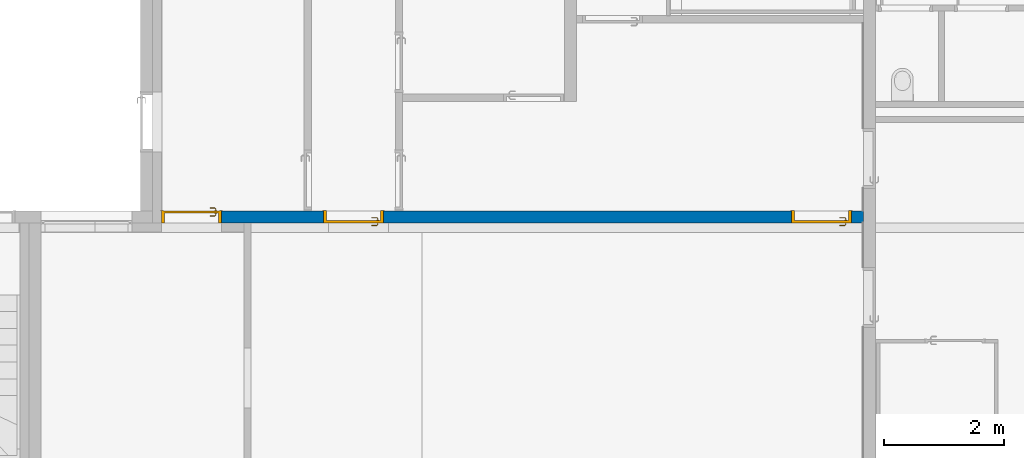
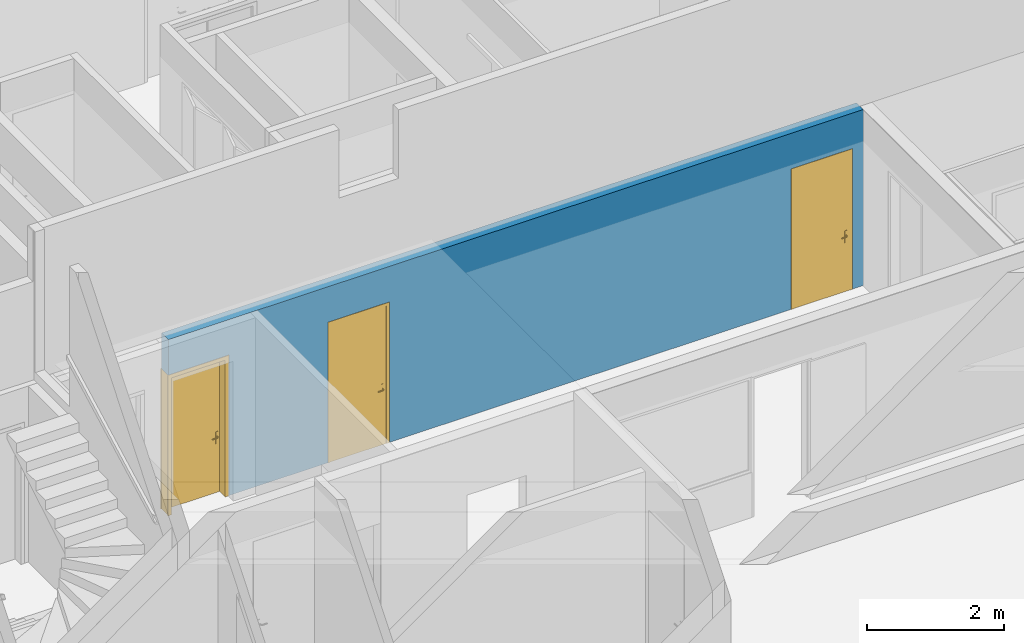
# One storey, part 89 of 240: 3 doors, 1 wall, 4 openings.
"""IFC2X3 building model written with IfcOpenShell, lengths in centimetres."""

from ifc_helpers import new_model, entity, si_unit, converted_unit, derived_unit, direction, frame, frame_2d, origin, place, context, subcontext, project, spatial, rectangle, extrude, faceted_brep, source, transform, mapped, material, material_list, layer, layer_set, layer_usage, type_object, type_shapes, element, fill, save


model = new_model("IFC2X3")

# Units and contexts
model_context = context("Model", 3, precision=0.001, world=origin(), true_north=direction((6.12303176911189e-17, 1.0)))
body_context = subcontext(model_context, "Body", "Model", "MODEL_VIEW")
ifc_project = project(units=[si_unit("LENGTHUNIT", "METRE", prefix="CENTI"), si_unit("AREAUNIT", "SQUARE_METRE"), si_unit("VOLUMEUNIT", "CUBIC_METRE"), converted_unit("PLANEANGLEUNIT", "DEGREE", entity("IfcRatioMeasure", 0.0174532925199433), si_unit("PLANEANGLEUNIT", "RADIAN"), dimensions=[0, 0, 0, 0, 0, 0, 0]), si_unit("MASSUNIT", "GRAM", prefix="KILO"), derived_unit("MASSDENSITYUNIT", [(si_unit("MASSUNIT", "GRAM", prefix="KILO"), 1), (si_unit("LENGTHUNIT", "METRE"), -3)]), si_unit("TIMEUNIT", "SECOND"), si_unit("FREQUENCYUNIT", "HERTZ"), si_unit("THERMODYNAMICTEMPERATUREUNIT", "DEGREE_CELSIUS"), derived_unit("THERMALTRANSMITTANCEUNIT", [(si_unit("MASSUNIT", "GRAM", prefix="KILO"), 1), (si_unit("THERMODYNAMICTEMPERATUREUNIT", "KELVIN"), -1), (si_unit("TIMEUNIT", "SECOND"), -3)]), derived_unit("VOLUMETRICFLOWRATEUNIT", [(si_unit("LENGTHUNIT", "METRE"), 3), (si_unit("TIMEUNIT", "SECOND"), -1)]), si_unit("ELECTRICCURRENTUNIT", "AMPERE"), si_unit("ELECTRICVOLTAGEUNIT", "VOLT"), si_unit("POWERUNIT", "WATT"), si_unit("FORCEUNIT", "NEWTON", prefix="KILO"), si_unit("ILLUMINANCEUNIT", "LUX"), si_unit("LUMINOUSFLUXUNIT", "LUMEN"), si_unit("LUMINOUSINTENSITYUNIT", "CANDELA"), derived_unit("USERDEFINED", [(si_unit("MASSUNIT", "GRAM", prefix="KILO"), -1), (si_unit("LENGTHUNIT", "METRE"), -2), (si_unit("TIMEUNIT", "SECOND"), 3), (si_unit("LUMINOUSFLUXUNIT", "LUMEN"), 1)]), derived_unit("LINEARVELOCITYUNIT", [(si_unit("LENGTHUNIT", "METRE"), 1), (si_unit("TIMEUNIT", "SECOND"), -1)]), si_unit("PRESSUREUNIT", "PASCAL"), derived_unit("USERDEFINED", [(si_unit("LENGTHUNIT", "METRE"), -2), (si_unit("MASSUNIT", "GRAM", prefix="KILO"), 1), (si_unit("TIMEUNIT", "SECOND"), -2)])], contexts=[model_context])

# Site, building, storey
site_placement = place(None, frame((-2781.94577612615, 7442.24238424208, 0.0)))
site = spatial("IfcSite", under=ifc_project, at=site_placement, Name="Default", CompositionType="ELEMENT")
building_placement = place(site_placement, origin())
building = spatial("IfcBuilding", under=site, at=building_placement, CompositionType="ELEMENT")
storey_placement = place(building_placement, origin())
storey = spatial("IfcBuildingStorey", under=building, at=storey_placement, Name="N00 - COO", CompositionType="ELEMENT", Elevation=0.0)

# Wall, openings, doors
ifc_material_1 = material(Name="01 - Maçonnerie")
ifc_layer = layer(ifc_material_1, 20.0)
ifc_layer_set = layer_set([ifc_layer], Name="Mur de base:04 - Structure - béton - 20cm")
ifc_layer_usage = layer_usage(ifc_layer_set, "AXIS2", "NEGATIVE", 10.0)
wall_type = type_object("IfcWallType", Name="Mur de base:04 - Structure - béton - 20cm", PredefinedType="STANDARD", material=ifc_layer_set)
wall_placement = place(building_placement, frame((-9697.0, -3362.52180651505, 0.0), z_axis=(0.0, 0.0, 1.0), x_axis=(-1.0, 0.0, 0.0)))
wall = element("IfcWallStandardCase", 1, at=wall_placement, inside=storey, type_object=wall_type, material=ifc_layer_usage, Name="Mur de base:04 - Structure - béton - 20cm", ObjectType="Mur de base:04 - Structure - béton - 20cm", context=body_context, shape_type="SweptSolid", body=[
    extrude(rectangle(XDim=1169.31305066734, YDim=19.9999999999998, at=frame_2d((584.656525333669, -1.06581410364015e-14), x_axis=(-1.0, 0.0))), origin(), (0.0, 0.0, 1.0), 313.000000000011),
])
opening_1_placement = place(wall_placement, origin())
element("IfcOpeningElement", 2, at=opening_1_placement, cuts=wall, Name="Mur de base:04 - Structure - béton - 20cm", ObjectType="Opening", context=body_context, shape_type="SweptSolid", body=[
    extrude(rectangle(XDim=250.0, YDim=151.269760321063, at=frame_2d((-8.66862137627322e-13, 0.0), x_axis=(0.0, 1.0))), frame((1294.24793082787, -25.2399999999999, 125.0), z_axis=(0.0, 1.0, 0.0), x_axis=(-1.0, 0.0, 0.0)), (0.0, 0.0, 1.0), 50.4799999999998),
])
opening_2_placement = place(wall_placement, frame((799.61304764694, -10.0, 0.0)))
opening_2 = element("IfcOpeningElement", 3, at=opening_2_placement, cuts=wall, Name="Int. Simple:PP simple (0.93m x 2.50m):1", ObjectType="Opening", context=body_context, shape_type="SweptSolid", body=[
    extrude(rectangle(XDim=248.500000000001, YDim=99.9999999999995, at=frame_2d((124.250000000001, 49.9999999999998), x_axis=(1.0, 0.0))), frame((0.0, 0.0, 0.0), z_axis=(0.0, 1.0, 0.0), x_axis=(0.0, 0.0, 1.0)), (0.0, 0.0, 1.0), 20.0),
])
opening_3_placement = place(wall_placement, frame((1169.31304764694, 10.0, 0.0)))
opening_3 = element("IfcOpeningElement", 4, at=opening_3_placement, cuts=wall, Name="Int. Simple:PP simple (0.93m x 2.50m):1", ObjectType="Opening", context=body_context, shape_type="SweptSolid", body=[
    extrude(rectangle(XDim=248.500000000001, YDim=99.9999999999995, at=frame_2d((124.250000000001, 50.0), x_axis=(1.0, 0.0))), frame((0.0, 0.0, 0.0), z_axis=(0.0, -1.0, 0.0), x_axis=(0.0, 0.0, 1.0)), (0.0, 0.0, 1.0), 20.0),
])
opening_4_placement = place(wall_placement, frame((19.9999969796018, -10.0, 0.0)))
opening_4 = element("IfcOpeningElement", 5, at=opening_4_placement, cuts=wall, Name="Int. Simple:PP simple (0.93m x 2.50m):1", ObjectType="Opening", context=body_context, shape_type="SweptSolid", body=[
    extrude(rectangle(XDim=248.500000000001, YDim=99.9999999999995, at=frame_2d((124.250000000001, 49.9999999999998), x_axis=(1.0, 0.0))), frame((0.0, 0.0, 0.0), z_axis=(0.0, 1.0, 0.0), x_axis=(0.0, 0.0, 1.0)), (0.0, 0.0, 1.0), 20.0),
])
ifc_material_2 = material(Name="Finition Peinture - Blanc satiné")
ifc_material_3 = material(Name="Bois - Panneau de porte")
ifc_material_4 = material(Name="Bois - Cadre de porte")
ifc_material_list_1 = material_list([ifc_material_2, ifc_material_3, ifc_material_4])
ifc_material_list_2 = material_list([ifc_material_2, ifc_material_3, ifc_material_4])
door_style_1 = type_object("IfcDoorStyle", Name="PP simple (0.93m x 2.50m)", ConstructionType="NOTDEFINED", OperationType="SINGLE_SWING_LEFT", ParameterTakesPrecedence=False, Sizeable=False, material=ifc_material_list_2)
shared_shape_1 = source(origin(), body_context, "Body", "Brep", [
    faceted_brep([(10.5352761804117, -0.500000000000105, 86.6003983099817), (11.5000000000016, -0.500000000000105, 87.0), (11.5000000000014, -0.500000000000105, 108.0), (10.5352761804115, -0.500000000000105, 108.399601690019), (9.50000000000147, -0.500000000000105, 108.535898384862), (8.46472381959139, -0.500000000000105, 108.399601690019), (7.50000000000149, -0.500000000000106, 108.0), (7.50000000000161, -0.500000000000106, 87.0), (8.46472381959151, -0.500000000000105, 86.6003983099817), (9.50000000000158, -0.500000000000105, 86.464101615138), (10.5352761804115, 0.0, 108.399601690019), (11.5000000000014, 0.0, 108.0), (11.5000000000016, 0.0, 87.0), (10.5352761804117, 0.0, 86.6003983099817), (9.50000000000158, 0.0, 86.464101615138), (8.46472381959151, 0.0, 86.6003983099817), (7.50000000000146, 0.0, 87.0), (7.50000000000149, 0.0, 108.0), (8.46472381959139, 0.0, 108.399601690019), (9.50000000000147, 0.0, 108.535898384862)], [[[0, 1, 2, 3, 4, 5, 6, 7, 8, 9]], [[10, 11, 12, 13, 14, 15, 16, 17, 18, 19]], [[16, 15, 8, 7]], [[8, 15, 14, 9]], [[14, 13, 0, 9]], [[13, 12, 1, 0]], [[2, 1, 12, 11]], [[11, 10, 3, 2]], [[3, 10, 19, 4]], [[19, 18, 5, 4]], [[18, 17, 6, 5]], [[7, 6, 17, 16]]]),
    faceted_brep([(10.5352761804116, 4.0, 86.6003983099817), (11.5000000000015, 4.0, 87.0), (11.5000000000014, 4.0, 108.0), (10.5352761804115, 4.0, 108.399601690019), (9.50000000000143, 4.0, 108.535898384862), (8.46472381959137, 4.0, 108.399601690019), (7.50000000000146, 4.0, 108.0), (7.50000000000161, 4.0, 87.0), (8.46472381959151, 4.0, 86.6003983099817), (9.50000000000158, 4.0, 86.464101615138), (10.5352761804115, 4.49999999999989, 108.399601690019), (11.5000000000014, 4.49999999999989, 108.0), (11.5000000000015, 4.49999999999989, 87.0), (10.5352761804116, 4.49999999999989, 86.6003983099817), (9.50000000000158, 4.49999999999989, 86.464101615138), (8.46472381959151, 4.49999999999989, 86.6003983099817), (7.50000000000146, 4.49999999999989, 87.0), (7.50000000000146, 4.49999999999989, 108.0), (8.46472381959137, 4.49999999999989, 108.399601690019), (9.50000000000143, 4.49999999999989, 108.535898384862)], [[[0, 1, 2, 3, 4, 5, 6, 7, 8, 9]], [[10, 11, 12, 13, 14, 15, 16, 17, 18, 19]], [[11, 10, 3, 2]], [[3, 10, 19, 4]], [[19, 18, 5, 4]], [[18, 17, 6, 5]], [[7, 6, 17, 16]], [[16, 15, 8, 7]], [[8, 15, 14, 9]], [[14, 13, 0, 9]], [[13, 12, 1, 0]], [[2, 1, 12, 11]]]),
    faceted_brep([(9.29747013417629, -0.500000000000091, 100.778044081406), (9.70252986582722, -0.500000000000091, 100.778044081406), (10.1000000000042, -0.500000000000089, 100.699999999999), (10.1000000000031, -0.500000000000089, 99.3000000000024), (9.7025298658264, -0.500000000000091, 99.2219559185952), (9.29747013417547, -0.500000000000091, 99.221955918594), (8.8999999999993, -0.500000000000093, 99.2999999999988), (8.89999999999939, -0.500000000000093, 100.7), (8.89999999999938, -3.26509507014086, 100.7), (9.29747013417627, -3.10045754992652, 100.778044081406), (10.9023585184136, -4.70534593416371, 100.778044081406), (11.0701397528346, -4.30028620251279, 100.778044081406), (9.7025298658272, -2.93267631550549, 100.778044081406), (10.1000000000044, -2.76803879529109, 100.7), (10.1000000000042, -2.76803879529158, 99.3000000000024), (9.7025298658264, -2.93267631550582, 99.2219559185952), (11.0701397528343, -4.30028620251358, 99.2219559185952), (10.9023585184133, -4.70534593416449, 99.221955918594), (9.29747013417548, -3.10045754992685, 99.221955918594), (8.89999999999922, -3.26509507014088, 99.2999999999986), (10.7377209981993, -5.10281606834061, 100.7), (11.2347772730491, -3.90281606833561, 100.7), (11.2347772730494, -3.90281606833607, 99.3000000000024), (10.7377209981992, -5.10281606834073, 99.2999999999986), (19.5018640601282, -5.1028160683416, 99.2999999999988), (19.5018640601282, -4.70534593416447, 99.221955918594), (19.5018640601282, -4.30028620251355, 99.2219559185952), (19.5018640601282, -3.90281606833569, 99.3000000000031), (19.5018640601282, -3.90281606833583, 100.7), (19.5018640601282, -4.30028620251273, 100.778044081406), (19.5018640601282, -4.70534593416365, 100.778044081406), (19.5018640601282, -5.10281606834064, 100.699999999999), (14.7307697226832, -5.10281606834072, 100.7), (15.2860019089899, -4.5028160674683, 100.78786867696), (15.3683206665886, -3.9028160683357, 100.7), (15.3683206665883, -3.90281606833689, 99.3000000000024), (15.2860018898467, -4.50281607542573, 99.2121313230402), (14.7307700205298, -5.10281606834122, 99.2999999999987)], [[[0, 1, 2, 3, 4, 5, 6, 7]], [[8, 9, 0, 7]], [[9, 10, 11, 12, 1, 0]], [[12, 13, 2, 1]], [[3, 2, 13, 14]], [[14, 15, 4, 3]], [[15, 16, 17, 18, 5, 4]], [[18, 19, 6, 5]], [[7, 6, 19, 8]], [[20, 10, 9, 8]], [[11, 21, 13, 12]], [[14, 13, 21, 22]], [[22, 16, 15, 14]], [[17, 23, 19, 18]], [[8, 19, 23, 20]], [[24, 25, 26, 27, 28, 29, 30, 31]], [[32, 30, 33]], [[31, 30, 32]], [[10, 20, 32]], [[33, 34, 11]], [[21, 11, 34]], [[34, 29, 28]], [[30, 29, 33]], [[29, 34, 33]], [[10, 32, 33]], [[10, 33, 11]], [[22, 21, 34, 28, 27, 35]], [[35, 26, 36]], [[37, 36, 25]], [[22, 35, 16]], [[35, 27, 26]], [[24, 37, 25]], [[23, 17, 37]], [[37, 17, 36]], [[17, 16, 36]], [[16, 35, 36]], [[25, 36, 26]], [[20, 23, 37, 24, 31, 32]]]),
    faceted_brep([(9.29747013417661, 4.49999999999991, 100.778044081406), (8.89999999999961, 4.4999999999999, 100.7), (8.89999999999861, 4.4999999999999, 99.2999999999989), (9.29747013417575, 4.49999999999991, 99.221955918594), (9.70252986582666, 4.49999999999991, 99.2219559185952), (10.1000000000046, 4.49999999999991, 99.3000000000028), (10.1000000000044, 4.49999999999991, 100.7), (9.70252986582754, 4.49999999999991, 100.778044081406), (10.1000000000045, 6.7485204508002, 99.3000000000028), (10.1000000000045, 6.74852045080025, 100.7), (9.70252986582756, 6.91315797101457, 100.778044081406), (11.083890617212, 8.29451872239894, 100.778044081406), (10.916109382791, 8.69957845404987, 100.778044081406), (9.29747013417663, 7.0809392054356, 100.778044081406), (8.89999999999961, 7.24557672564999, 100.7), (8.89999999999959, 7.2455767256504, 99.2999999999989), (9.29747013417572, 7.08093920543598, 99.221955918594), (10.9161093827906, 8.69957845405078, 99.221955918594), (11.0838906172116, 8.29451872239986, 99.2219559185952), (9.70252986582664, 6.91315797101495, 99.2219559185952), (11.2485281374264, 7.89704858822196, 99.3000000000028), (11.2485281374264, 7.89704858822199, 100.7), (10.7514718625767, 9.09704858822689, 100.7), (10.7514718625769, 9.0970485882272, 99.2999999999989), (19.5045783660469, 7.89704858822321, 99.3000000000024), (19.5045783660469, 8.29451872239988, 99.2219559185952), (19.5045783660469, 8.6995784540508, 99.221955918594), (19.5045783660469, 9.09704858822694, 99.2999999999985), (19.5045783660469, 9.09704858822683, 100.7), (19.5045783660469, 8.69957845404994, 100.778044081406), (19.5045783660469, 8.29451872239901, 100.778044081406), (19.5045783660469, 7.89704858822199, 100.7), (15.3765520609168, 7.89704858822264, 99.3000000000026), (15.3765532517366, 7.89704858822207, 100.7), (15.294234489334, 8.49704858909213, 100.78786867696), (14.7445205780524, 9.09704858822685, 100.7), (14.7445204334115, 9.09704858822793, 99.2999999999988), (15.2942345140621, 8.49704858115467, 99.2121313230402)], [[[0, 1, 2, 3, 4, 5, 6, 7]], [[6, 5, 8, 9]], [[9, 10, 7, 6]], [[10, 11, 12, 13, 0, 7]], [[13, 14, 1, 0]], [[2, 1, 14, 15]], [[15, 16, 3, 2]], [[16, 17, 18, 19, 4, 3]], [[19, 8, 5, 4]], [[9, 8, 20, 21]], [[21, 11, 10, 9]], [[12, 22, 14, 13]], [[15, 14, 22, 23]], [[23, 17, 16, 15]], [[18, 20, 8, 19]], [[24, 25, 26, 27, 28, 29, 30, 31]], [[21, 20, 32, 24, 31, 33]], [[33, 30, 34]], [[35, 34, 29]], [[21, 33, 11]], [[33, 31, 30]], [[28, 35, 29]], [[22, 12, 35]], [[35, 12, 34]], [[12, 11, 34]], [[11, 33, 34]], [[29, 34, 30]], [[22, 35, 28, 27, 36, 23]], [[36, 26, 37]], [[27, 26, 36]], [[17, 23, 36]], [[37, 32, 18]], [[20, 18, 32]], [[32, 25, 24]], [[26, 25, 37]], [[25, 32, 37]], [[17, 36, 37]], [[17, 37, 18]]]),
    faceted_brep([(3.50000000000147, 4.0, 245.0), (96.5000000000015, 4.0, 245.0), (96.5000000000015, 4.0, 0.0), (3.50000000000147, 4.0, 0.0), (3.50000000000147, 0.0, 245.0), (3.50000000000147, 0.0, 0.0), (96.5000000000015, 0.0, 0.0), (96.5000000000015, 0.0, 245.0)], [[[0, 1, 2, 3]], [[4, 5, 6, 7]], [[1, 0, 4, 7]], [[2, 1, 7, 6]], [[3, 2, 6, 5]], [[0, 3, 5, 4]]]),
    faceted_brep([(0.0, 20.0, 0.0), (-1.50000000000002, 20.0, 0.0), (-1.50000000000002, 20.5000000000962, 0.0), (5.0, 20.5000000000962, 0.0), (5.0, 4.0, 0.0), (3.50000000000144, 4.0, 0.0), (3.50000000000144, -0.500000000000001, 0.0), (-1.50000000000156, -0.500000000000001, 0.0), (-1.50000000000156, 0.0, 0.0), (0.0, 0.0, 0.0), (0.0, 0.0, 248.500000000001), (0.0, 20.0, 248.500000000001), (100.0, 20.0, 248.500000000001), (100.0, 20.0, 0.0), (101.5, 20.0, 0.0), (101.5, 20.0, 250.0), (-1.50000000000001, 20.0, 250.0), (5.0, 20.5000000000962, 243.5), (5.0, 4.0, 243.5), (95.0, 4.0, 243.5), (95.0, 4.0, 0.0), (96.499999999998, 4.0, 0.0), (96.499999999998, 4.0, 245.0), (3.50000000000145, 4.0, 245.0), (100.0, 0.0, 248.500000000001), (100.0, 0.0, 0.0), (101.500000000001, 0.0, 0.0), (101.500000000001, -0.500000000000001, 0.0), (96.499999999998, -0.500000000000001, 0.0), (95.0, 20.5000000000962, 0.0), (101.5, 20.5000000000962, 0.0), (95.0, 20.5000000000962, 243.5), (3.50000000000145, -0.500000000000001, 245.0), (96.499999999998, -0.500000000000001, 245.0), (101.500000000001, -0.500000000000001, 250.0), (-1.50000000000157, -0.500000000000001, 250.0), (-1.50000000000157, 0.0, 250.0), (101.500000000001, 0.0, 250.0), (-1.50000000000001, 20.5000000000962, 250.0), (101.5, 20.5000000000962, 250.0)], [[[0, 1, 2, 3, 4, 5, 6, 7, 8, 9]], [[0, 9, 10, 11]], [[1, 0, 11, 12, 13, 14, 15, 16]], [[3, 17, 18, 4]], [[5, 4, 18, 19, 20, 21, 22, 23]], [[12, 24, 25, 13]], [[13, 25, 26, 27, 28, 21, 20, 29, 30, 14]], [[19, 31, 29, 20]], [[11, 10, 24, 12]], [[18, 17, 31, 19]], [[5, 23, 32, 6]], [[7, 6, 32, 33, 28, 27, 34, 35]], [[8, 7, 35, 36]], [[9, 8, 36, 37, 26, 25, 24, 10]], [[2, 1, 16, 38]], [[3, 2, 38, 39, 30, 29, 31, 17]], [[33, 22, 21, 28]], [[37, 34, 27, 26]], [[39, 15, 14, 30]], [[32, 23, 22, 33]], [[36, 35, 34, 37]], [[38, 16, 15, 39]]]),
])
type_shapes(door_style_1, [shared_shape_1])
door_1_placement = place(opening_3_placement, frame((-100.0, -20.0, 0.0)))
door_1 = element("IfcDoor", 6, at=door_1_placement, inside=storey, type_object=door_style_1, material=ifc_material_list_1, Name="Int. Simple:PP simple (0.93m x 2.50m)", ObjectType="Int. Simple:PP simple (0.93m x 2.50m)", OverallHeight=248.500000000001, OverallWidth=99.9999999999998, context=body_context, shape_type="MappedRepresentation", body=[
    mapped(shared_shape_1, transform((0.0, 0.0, 0.0), scale=1.0)),
])
fill(opening_3, door_1)
ifc_material_list_3 = material_list([ifc_material_2, ifc_material_3, ifc_material_4])
ifc_material_list_4 = material_list([ifc_material_2, ifc_material_3, ifc_material_4])
door_style_2 = type_object("IfcDoorStyle", Name="PP simple (0.93m x 2.50m)", ConstructionType="NOTDEFINED", OperationType="SINGLE_SWING_RIGHT", ParameterTakesPrecedence=False, Sizeable=False, material=ifc_material_list_4)
shared_shape_2 = source(origin(), body_context, "Body", "Brep", [
    faceted_brep([(99.5000000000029, -0.500000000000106, 87.0), (99.5000000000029, -0.500000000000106, 108.0), (98.535276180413, -0.500000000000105, 108.399601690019), (97.5000000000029, -0.500000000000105, 108.535898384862), (96.4647238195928, -0.500000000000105, 108.399601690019), (95.500000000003, -0.500000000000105, 108.0), (95.5000000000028, -0.500000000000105, 87.0), (96.4647238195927, -0.500000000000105, 86.6003983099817), (97.5000000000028, -0.500000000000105, 86.464101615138), (98.5352761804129, -0.500000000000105, 86.6003983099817), (99.5000000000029, 0.0, 108.0), (99.5000000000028, 0.0, 87.0), (98.5352761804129, 0.0, 86.6003983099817), (97.5000000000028, 0.0, 86.464101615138), (96.4647238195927, 0.0, 86.6003983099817), (95.5000000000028, 0.0, 87.0), (95.5000000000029, 0.0, 108.0), (96.4647238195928, 0.0, 108.399601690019), (97.5000000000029, 0.0, 108.535898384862), (98.535276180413, 0.0, 108.399601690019)], [[[0, 1, 2, 3, 4, 5, 6, 7, 8, 9]], [[10, 11, 12, 13, 14, 15, 16, 17, 18, 19]], [[9, 12, 11, 0]], [[8, 13, 12, 9]], [[7, 14, 13, 8]], [[7, 6, 15, 14]], [[15, 6, 5, 16]], [[4, 17, 16, 5]], [[3, 18, 17, 4]], [[2, 19, 18, 3]], [[2, 1, 10, 19]], [[11, 10, 1, 0]]]),
    faceted_brep([(99.5000000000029, 4.0, 87.0), (99.5000000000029, 4.0, 108.0), (98.535276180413, 4.0, 108.399601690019), (97.5000000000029, 4.0, 108.535898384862), (96.4647238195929, 4.0, 108.399601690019), (95.500000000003, 4.0, 108.0), (95.5000000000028, 4.0, 87.0), (96.4647238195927, 4.0, 86.6003983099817), (97.5000000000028, 4.0, 86.464101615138), (98.5352761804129, 4.0, 86.6003983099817), (97.5000000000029, 4.49999999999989, 108.535898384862), (98.535276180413, 4.49999999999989, 108.399601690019), (99.5000000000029, 4.49999999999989, 108.0), (99.5000000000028, 4.49999999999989, 87.0), (98.5352761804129, 4.49999999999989, 86.6003983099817), (97.5000000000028, 4.49999999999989, 86.464101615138), (96.4647238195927, 4.49999999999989, 86.6003983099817), (95.5000000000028, 4.49999999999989, 87.0), (95.500000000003, 4.49999999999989, 108.0), (96.4647238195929, 4.49999999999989, 108.399601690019)], [[[0, 1, 2, 3, 4, 5, 6, 7, 8, 9]], [[10, 11, 12, 13, 14, 15, 16, 17, 18, 19]], [[4, 19, 18, 5]], [[3, 10, 19, 4]], [[2, 11, 10, 3]], [[2, 1, 12, 11]], [[13, 12, 1, 0]], [[9, 14, 13, 0]], [[8, 15, 14, 9]], [[7, 16, 15, 8]], [[7, 6, 17, 16]], [[17, 6, 5, 18]]]),
    faceted_brep([(97.2974701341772, -0.500000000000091, 100.778044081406), (97.7025298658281, -0.500000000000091, 100.778044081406), (98.1000000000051, -0.500000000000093, 100.699999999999), (98.100000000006, -0.500000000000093, 99.2999999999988), (97.7025298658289, -0.500000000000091, 99.221955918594), (97.297470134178, -0.500000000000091, 99.2219559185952), (96.9000000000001, -0.500000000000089, 99.3000000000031), (96.9000000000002, -0.500000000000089, 100.7), (97.7025298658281, -3.10045754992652, 100.778044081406), (98.1000000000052, -3.26509507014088, 100.7), (97.2974701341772, -2.93267631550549, 100.778044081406), (95.9298602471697, -4.30028620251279, 100.778044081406), (96.0976414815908, -4.70534593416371, 100.778044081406), (96.9000000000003, -2.76803879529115, 100.7), (96.9000000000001, -2.76803879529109, 99.3000000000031), (97.297470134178, -2.93267631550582, 99.2219559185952), (97.7025298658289, -3.10045754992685, 99.221955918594), (96.0976414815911, -4.70534593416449, 99.221955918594), (95.9298602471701, -4.30028620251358, 99.2219559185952), (98.100000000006, -3.26509507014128, 99.2999999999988), (96.2622790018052, -5.1028160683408, 100.7), (95.7652227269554, -3.90281606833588, 100.7), (95.7652227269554, -3.90281606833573, 99.3000000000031), (96.2622790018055, -5.10281606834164, 99.2999999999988), (87.4981359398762, -5.10281606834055, 100.7), (87.4981359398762, -4.70534593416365, 100.778044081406), (87.4981359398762, -4.30028620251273, 100.778044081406), (87.4981359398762, -3.90281606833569, 100.699999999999), (87.4981359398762, -3.90281606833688, 99.3000000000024), (87.4981359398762, -4.30028620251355, 99.2219559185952), (87.4981359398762, -4.70534593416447, 99.221955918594), (87.4981359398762, -5.10281606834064, 99.2999999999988), (91.7139980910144, -4.5028160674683, 100.78786867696), (92.2692302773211, -5.1028160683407, 100.7), (91.6316793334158, -3.9028160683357, 100.7), (91.631679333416, -3.90281606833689, 99.3000000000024), (91.7139981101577, -4.50281607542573, 99.2121313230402), (92.2692310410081, -5.10281606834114, 99.2999999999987)], [[[0, 1, 2, 3, 4, 5, 6, 7]], [[2, 1, 8, 9]], [[1, 0, 10, 11, 12, 8]], [[0, 7, 13, 10]], [[14, 13, 7, 6]], [[5, 15, 14, 6]], [[5, 4, 16, 17, 18, 15]], [[3, 19, 16, 4]], [[9, 19, 3, 2]], [[9, 8, 12, 20]], [[10, 13, 21, 11]], [[22, 21, 13, 14]], [[14, 15, 18, 22]], [[16, 19, 23, 17]], [[20, 23, 19, 9]], [[24, 25, 26, 27, 28, 29, 30, 31]], [[32, 25, 33]], [[33, 25, 24]], [[33, 20, 12]], [[11, 34, 32]], [[34, 11, 21]], [[27, 26, 34]], [[32, 26, 25]], [[32, 34, 26]], [[32, 33, 12]], [[11, 32, 12]], [[21, 22, 35, 28, 27, 34]], [[36, 29, 35]], [[30, 36, 37]], [[18, 35, 22]], [[29, 28, 35]], [[30, 37, 31]], [[37, 17, 23]], [[36, 17, 37]], [[36, 18, 17]], [[36, 35, 18]], [[29, 36, 30]], [[23, 20, 33, 24, 31, 37]]]),
    faceted_brep([(97.2974701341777, 4.49999999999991, 99.2219559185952), (97.7025298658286, 4.49999999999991, 99.221955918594), (98.1000000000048, 4.4999999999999, 99.2999999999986), (98.1000000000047, 4.4999999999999, 100.7), (97.7025298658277, 4.49999999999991, 100.778044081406), (97.2974701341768, 4.49999999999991, 100.778044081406), (96.8999999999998, 4.49999999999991, 100.7), (96.900000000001, 4.49999999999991, 99.3000000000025), (96.8999999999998, 6.7485204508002, 100.7), (96.8999999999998, 6.74852045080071, 99.3000000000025), (97.2974701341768, 6.91315797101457, 100.778044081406), (97.7025298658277, 7.0809392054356, 100.778044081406), (96.0838906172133, 8.69957845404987, 100.778044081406), (95.9161093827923, 8.29451872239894, 100.778044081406), (98.1000000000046, 7.24557672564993, 100.7), (98.1000000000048, 7.24557672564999, 99.2999999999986), (97.7025298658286, 7.08093920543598, 99.221955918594), (97.2974701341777, 6.91315797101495, 99.2219559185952), (95.9161093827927, 8.29451872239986, 99.2219559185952), (96.0838906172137, 8.69957845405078, 99.221955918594), (95.751471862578, 7.89704858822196, 100.7), (95.7514718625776, 7.89704858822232, 99.3000000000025), (96.2485281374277, 9.09704858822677, 100.7), (96.2485281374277, 9.09704858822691, 99.2999999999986), (87.4954216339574, 8.29451872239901, 100.778044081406), (87.4954216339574, 8.69957845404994, 100.778044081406), (87.4954216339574, 9.09704858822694, 100.7), (87.4954216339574, 9.09704858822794, 99.2999999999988), (87.4954216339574, 8.6995784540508, 99.221955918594), (87.4954216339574, 8.29451872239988, 99.2219559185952), (87.4954216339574, 7.89704858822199, 99.3000000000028), (87.4954216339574, 7.89704858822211, 100.7), (91.6234467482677, 7.89704858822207, 100.7), (91.6234479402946, 7.89704858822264, 99.3000000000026), (91.7057655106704, 8.49704858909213, 100.78786867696), (92.255479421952, 9.09704858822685, 100.7), (92.2554795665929, 9.09704858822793, 99.2999999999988), (91.7057654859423, 8.49704858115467, 99.2121313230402)], [[[0, 1, 2, 3, 4, 5, 6, 7]], [[8, 9, 7, 6]], [[5, 10, 8, 6]], [[5, 4, 11, 12, 13, 10]], [[3, 14, 11, 4]], [[14, 3, 2, 15]], [[2, 1, 16, 15]], [[1, 0, 17, 18, 19, 16]], [[0, 7, 9, 17]], [[20, 21, 9, 8]], [[8, 10, 13, 20]], [[14, 22, 12, 11]], [[23, 22, 14, 15]], [[15, 16, 19, 23]], [[17, 9, 21, 18]], [[24, 25, 26, 27, 28, 29, 30, 31]], [[21, 20, 32, 31, 30, 33]], [[34, 24, 32]], [[25, 34, 35]], [[13, 32, 20]], [[24, 31, 32]], [[25, 35, 26]], [[35, 12, 22]], [[34, 12, 35]], [[34, 13, 12]], [[34, 32, 13]], [[24, 34, 25]], [[22, 23, 36, 27, 26, 35]], [[37, 28, 36]], [[36, 28, 27]], [[36, 23, 19]], [[18, 33, 37]], [[33, 18, 21]], [[30, 29, 33]], [[37, 29, 28]], [[37, 33, 29]], [[37, 36, 19]], [[18, 37, 19]]]),
    faceted_brep([(103.500000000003, 4.0, 245.0), (103.500000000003, 4.0, 0.0), (10.5000000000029, 4.0, 0.0), (10.5000000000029, 4.0, 245.0), (103.500000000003, 0.0, 245.0), (10.5000000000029, 0.0, 245.0), (10.5000000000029, 0.0, 0.0), (103.500000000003, 0.0, 0.0)], [[[0, 1, 2, 3]], [[4, 5, 6, 7]], [[3, 5, 4, 0]], [[2, 6, 5, 3]], [[1, 7, 6, 2]], [[0, 4, 7, 1]]]),
    faceted_brep([(107.0, 20.0, 0.0), (107.0, 0.0, 0.0), (108.500000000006, 0.0, 0.0), (108.500000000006, -0.500000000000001, 0.0), (103.500000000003, -0.500000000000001, 0.0), (103.500000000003, 4.0, 0.0), (102.0, 4.0, 0.0), (102.0, 20.5000000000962, 0.0), (108.500000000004, 20.5000000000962, 0.0), (108.500000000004, 20.0, 0.0), (107.0, 20.0, 248.500000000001), (107.0, 0.0, 248.500000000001), (108.500000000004, 20.0, 250.0), (5.50000000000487, 20.0, 250.0), (5.50000000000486, 20.0, 0.0), (7.0, 20.0, 0.0), (7.0, 20.0, 248.500000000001), (102.0, 4.0, 243.5), (102.0, 20.5000000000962, 243.5), (103.500000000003, 4.0, 245.0), (10.5000000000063, 4.0, 245.0), (10.5000000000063, 4.0, 0.0), (12.0, 4.0, 0.0), (12.0, 4.0, 243.5), (7.0, 0.0, 0.0), (7.0, 0.0, 248.500000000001), (5.50000000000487, 20.5000000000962, 0.0), (12.0, 20.5000000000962, 0.0), (10.5000000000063, -0.500000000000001, 0.0), (5.5000000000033, -0.500000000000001, 0.0), (5.5000000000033, 0.0, 0.0), (12.0, 20.5000000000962, 243.5), (103.500000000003, -0.500000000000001, 245.0), (108.500000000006, -0.500000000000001, 250.0), (5.5000000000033, -0.500000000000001, 250.0), (10.5000000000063, -0.500000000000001, 245.0), (108.500000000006, 0.0, 250.0), (5.50000000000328, 0.0, 250.0), (108.500000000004, 20.5000000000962, 250.0), (5.50000000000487, 20.5000000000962, 250.0)], [[[0, 1, 2, 3, 4, 5, 6, 7, 8, 9]], [[0, 10, 11, 1]], [[9, 12, 13, 14, 15, 16, 10, 0]], [[7, 6, 17, 18]], [[5, 19, 20, 21, 22, 23, 17, 6]], [[16, 15, 24, 25]], [[15, 14, 26, 27, 22, 21, 28, 29, 30, 24]], [[23, 22, 27, 31]], [[10, 16, 25, 11]], [[17, 23, 31, 18]], [[5, 4, 32, 19]], [[3, 33, 34, 29, 28, 35, 32, 4]], [[2, 36, 33, 3]], [[1, 11, 25, 24, 30, 37, 36, 2]], [[8, 38, 12, 9]], [[7, 18, 31, 27, 26, 39, 38, 8]], [[35, 28, 21, 20]], [[37, 30, 29, 34]], [[39, 26, 14, 13]], [[32, 35, 20, 19]], [[36, 37, 34, 33]], [[38, 39, 13, 12]]]),
])
type_shapes(door_style_2, [shared_shape_2])
door_2_placement = place(opening_2_placement, frame((107.0, 20.0, 0.0), z_axis=(0.0, 0.0, 1.0), x_axis=(-1.0, 0.0, 0.0)))
door_2 = element("IfcDoor", 7, at=door_2_placement, inside=storey, type_object=door_style_2, material=ifc_material_list_3, Name="Int. Simple:PP simple (0.93m x 2.50m)", ObjectType="Int. Simple:PP simple (0.93m x 2.50m)", OverallHeight=248.500000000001, OverallWidth=99.9999999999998, context=body_context, shape_type="MappedRepresentation", body=[
    mapped(shared_shape_2, transform((0.0, 0.0, 0.0), scale=1.0)),
])
fill(opening_2, door_2)
ifc_material_list_5 = material_list([ifc_material_2, ifc_material_3, ifc_material_4])
door_3_placement = place(opening_4_placement, frame((107.000003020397, 20.0, 0.0), z_axis=(0.0, 0.0, 1.0), x_axis=(-1.0, 0.0, 0.0)))
door_3 = element("IfcDoor", 8, at=door_3_placement, inside=storey, type_object=door_style_2, material=ifc_material_list_5, Name="Int. Simple:PP simple (0.93m x 2.50m)", ObjectType="Int. Simple:PP simple (0.93m x 2.50m)", OverallHeight=248.500000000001, OverallWidth=99.9999999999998, context=body_context, shape_type="MappedRepresentation", body=[
    mapped(shared_shape_2, transform((0.0, 0.0, 0.0), scale=1.0)),
])
fill(opening_4, door_3)

save(model, "model.ifc")
